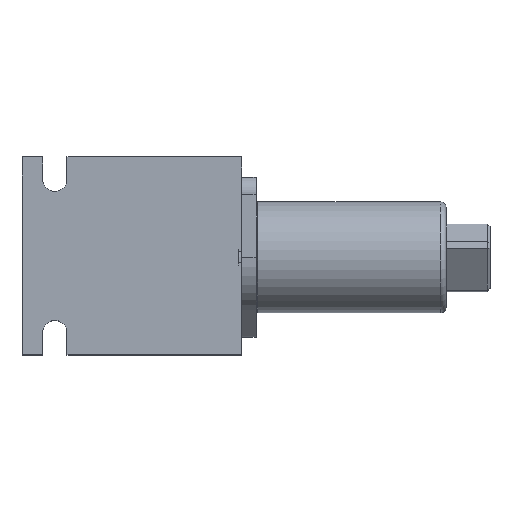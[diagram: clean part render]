
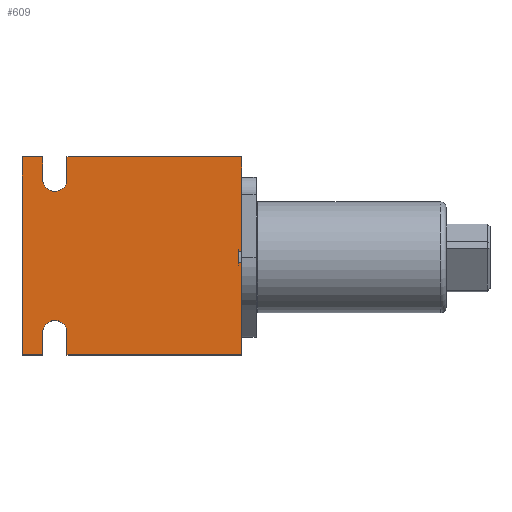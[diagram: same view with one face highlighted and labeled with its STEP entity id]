
A CAD part, top view. The second image highlights one B-rep face of the part: STEP entity #609.
In plain terms, the highlighted planar face has unit normal (0, 0, 1).
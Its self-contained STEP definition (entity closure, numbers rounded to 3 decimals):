
#609 = ADVANCED_FACE( '', ( #1252 ), #1253, .F. );
#1252 = FACE_OUTER_BOUND( '', #1998, .T. );
#1253 = PLANE( '', #1999 );
#1998 = EDGE_LOOP( '', ( #3231, #3232, #3233, #3234, #3235, #3236, #3237, #3238, #3239, #3240, #3241, #3242, #3243, #3244, #3245, #3246 ) );
#1999 = AXIS2_PLACEMENT_3D( '', #3247, #3248, #3249 );
#3231 = ORIENTED_EDGE( '', *, *, #4129, .F. );
#3232 = ORIENTED_EDGE( '', *, *, #4498, .T. );
#3233 = ORIENTED_EDGE( '', *, *, #4499, .T. );
#3234 = ORIENTED_EDGE( '', *, *, #4500, .T. );
#3235 = ORIENTED_EDGE( '', *, *, #4133, .F. );
#3236 = ORIENTED_EDGE( '', *, *, #4501, .F. );
#3237 = ORIENTED_EDGE( '', *, *, #4383, .T. );
#3238 = ORIENTED_EDGE( '', *, *, #4078, .T. );
#3239 = ORIENTED_EDGE( '', *, *, #4502, .T. );
#3240 = ORIENTED_EDGE( '', *, *, #4300, .F. );
#3241 = ORIENTED_EDGE( '', *, *, #4503, .F. );
#3242 = ORIENTED_EDGE( '', *, *, #4504, .F. );
#3243 = ORIENTED_EDGE( '', *, *, #4461, .F. );
#3244 = ORIENTED_EDGE( '', *, *, #4505, .F. );
#3245 = ORIENTED_EDGE( '', *, *, #4487, .F. );
#3246 = ORIENTED_EDGE( '', *, *, #4506, .F. );
#3247 = CARTESIAN_POINT( '', ( 31.75, -28.6, 31.75 ) );
#3248 = DIRECTION( '', ( 0., 0., -1. ) );
#3249 = DIRECTION( '', ( -1., 0., 0. ) );
#4078 = EDGE_CURVE( '', #4737, #4735, #4738, .T. );
#4129 = EDGE_CURVE( '', #4826, #4828, #4829, .T. );
#4133 = EDGE_CURVE( '', #4834, #4825, #4836, .T. );
#4300 = EDGE_CURVE( '', #5111, #5112, #5113, .T. );
#4383 = EDGE_CURVE( '', #5239, #4737, #5240, .T. );
#4461 = EDGE_CURVE( '', #5350, #5352, #5353, .T. );
#4487 = EDGE_CURVE( '', #5389, #5391, #5392, .T. );
#4498 = EDGE_CURVE( '', #4826, #5405, #5406, .T. );
#4499 = EDGE_CURVE( '', #5405, #5407, #5408, .T. );
#4500 = EDGE_CURVE( '', #5407, #4825, #5409, .F. );
#4501 = EDGE_CURVE( '', #5239, #4834, #5410, .T. );
#4502 = EDGE_CURVE( '', #4735, #5112, #5411, .T. );
#4503 = EDGE_CURVE( '', #5412, #5111, #5413, .T. );
#4504 = EDGE_CURVE( '', #5352, #5412, #5414, .T. );
#4505 = EDGE_CURVE( '', #5391, #5350, #5415, .T. );
#4506 = EDGE_CURVE( '', #4828, #5389, #5416, .T. );
#4735 = VERTEX_POINT( '', #5693 );
#4737 = VERTEX_POINT( '', #5696 );
#4738 = CIRCLE( '', #5697, 3.5 );
#4825 = VERTEX_POINT( '', #5945 );
#4826 = VERTEX_POINT( '', #5946 );
#4828 = VERTEX_POINT( '', #5948 );
#4829 = LINE( '', #5949, #5950 );
#4834 = VERTEX_POINT( '', #5957 );
#4836 = LINE( '', #5960, #5961 );
#5111 = VERTEX_POINT( '', #6383 );
#5112 = VERTEX_POINT( '', #6384 );
#5113 = LINE( '', #6385, #6386 );
#5239 = VERTEX_POINT( '', #6565 );
#5240 = LINE( '', #6566, #6567 );
#5350 = VERTEX_POINT( '', #6808 );
#5352 = VERTEX_POINT( '', #6811 );
#5353 = LINE( '', #6812, #6813 );
#5389 = VERTEX_POINT( '', #6890 );
#5391 = VERTEX_POINT( '', #6893 );
#5392 = LINE( '', #6894, #6895 );
#5405 = VERTEX_POINT( '', #6911 );
#5406 = LINE( '', #6912, #6913 );
#5407 = VERTEX_POINT( '', #6914 );
#5408 = LINE( '', #6915, #6916 );
#5409 = LINE( '', #6917, #6918 );
#5410 = LINE( '', #6919, #6920 );
#5411 = LINE( '', #6921, #6922 );
#5412 = VERTEX_POINT( '', #6923 );
#5413 = LINE( '', #6924, #6925 );
#5414 = LINE( '', #6926, #6927 );
#5415 = CIRCLE( '', #6928, 3.5 );
#5416 = LINE( '', #6929, #6930 );
#5693 = CARTESIAN_POINT( '', ( -25.75, 22.15, 31.75 ) );
#5696 = CARTESIAN_POINT( '', ( -18.75, 22.15, 31.75 ) );
#5697 = AXIS2_PLACEMENT_3D( '', #7368, #7369, #7370 );
#5945 = CARTESIAN_POINT( '', ( 31.75, 1.213, 31.75 ) );
#5946 = CARTESIAN_POINT( '', ( 31.75, -2.013, 31.75 ) );
#5948 = CARTESIAN_POINT( '', ( 31.75, -28.6, 31.75 ) );
#5949 = CARTESIAN_POINT( '', ( 31.75, 28.6, 31.75 ) );
#5950 = VECTOR( '', #7410, 1000. );
#5957 = CARTESIAN_POINT( '', ( 31.75, 28.6, 31.75 ) );
#5960 = CARTESIAN_POINT( '', ( 31.75, 28.6, 31.75 ) );
#5961 = VECTOR( '', #7414, 1000. );
#6383 = CARTESIAN_POINT( '', ( -31.75, 28.6, 31.75 ) );
#6384 = CARTESIAN_POINT( '', ( -25.75, 28.6, 31.75 ) );
#6385 = CARTESIAN_POINT( '', ( -31.75, 28.6, 31.75 ) );
#6386 = VECTOR( '', #7547, 1000. );
#6565 = CARTESIAN_POINT( '', ( -18.75, 28.6, 31.75 ) );
#6566 = CARTESIAN_POINT( '', ( -18.75, 22.15, 31.75 ) );
#6567 = VECTOR( '', #7605, 1000. );
#6808 = CARTESIAN_POINT( '', ( -25.75, -22.15, 31.75 ) );
#6811 = CARTESIAN_POINT( '', ( -25.75, -28.6, 31.75 ) );
#6812 = CARTESIAN_POINT( '', ( -25.75, -22.15, 31.75 ) );
#6813 = VECTOR( '', #7645, 1000. );
#6890 = CARTESIAN_POINT( '', ( -18.75, -28.6, 31.75 ) );
#6893 = CARTESIAN_POINT( '', ( -18.75, -22.15, 31.75 ) );
#6894 = CARTESIAN_POINT( '', ( -18.75, -22.15, 31.75 ) );
#6895 = VECTOR( '', #7676, 1000. );
#6911 = CARTESIAN_POINT( '', ( 30.75, -2.013, 31.75 ) );
#6912 = CARTESIAN_POINT( '', ( 31.75, -2.013, 31.75 ) );
#6913 = VECTOR( '', #7685, 1000. );
#6914 = CARTESIAN_POINT( '', ( 30.75, 1.213, 31.75 ) );
#6915 = CARTESIAN_POINT( '', ( 30.75, -28.6, 31.75 ) );
#6916 = VECTOR( '', #7686, 1000. );
#6917 = CARTESIAN_POINT( '', ( 31.75, 1.213, 31.75 ) );
#6918 = VECTOR( '', #7687, 1000. );
#6919 = CARTESIAN_POINT( '', ( -31.75, 28.6, 31.75 ) );
#6920 = VECTOR( '', #7688, 1000. );
#6921 = CARTESIAN_POINT( '', ( -25.75, 22.15, 31.75 ) );
#6922 = VECTOR( '', #7689, 1000. );
#6923 = CARTESIAN_POINT( '', ( -31.75, -28.6, 31.75 ) );
#6924 = CARTESIAN_POINT( '', ( -31.75, -28.6, 31.75 ) );
#6925 = VECTOR( '', #7690, 1000. );
#6926 = CARTESIAN_POINT( '', ( 31.75, -28.6, 31.75 ) );
#6927 = VECTOR( '', #7691, 1000. );
#6928 = AXIS2_PLACEMENT_3D( '', #7692, #7693, #7694 );
#6929 = CARTESIAN_POINT( '', ( 31.75, -28.6, 31.75 ) );
#6930 = VECTOR( '', #7695, 1000. );
#7368 = CARTESIAN_POINT( '', ( -22.25, 22.15, 31.75 ) );
#7369 = DIRECTION( '', ( 0., 0., -1. ) );
#7370 = DIRECTION( '', ( 1., 0., 0. ) );
#7410 = DIRECTION( '', ( 0., -1., 0. ) );
#7414 = DIRECTION( '', ( 0., -1., 0. ) );
#7547 = DIRECTION( '', ( 1., 0., 0. ) );
#7605 = DIRECTION( '', ( 0., -1., 0. ) );
#7645 = DIRECTION( '', ( 0., -1., 0. ) );
#7676 = DIRECTION( '', ( 0., 1., 0. ) );
#7685 = DIRECTION( '', ( -1., 0., 0. ) );
#7686 = DIRECTION( '', ( 0., 1., 0. ) );
#7687 = DIRECTION( '', ( -1., 0., 0. ) );
#7688 = DIRECTION( '', ( 1., 0., 0. ) );
#7689 = DIRECTION( '', ( 0., 1., 0. ) );
#7690 = DIRECTION( '', ( 0., 1., 0. ) );
#7691 = DIRECTION( '', ( -1., 0., 0. ) );
#7692 = CARTESIAN_POINT( '', ( -22.25, -22.15, 31.75 ) );
#7693 = DIRECTION( '', ( 0., 0., 1. ) );
#7694 = DIRECTION( '', ( 1., 0., 0. ) );
#7695 = DIRECTION( '', ( -1., 0., 0. ) );
